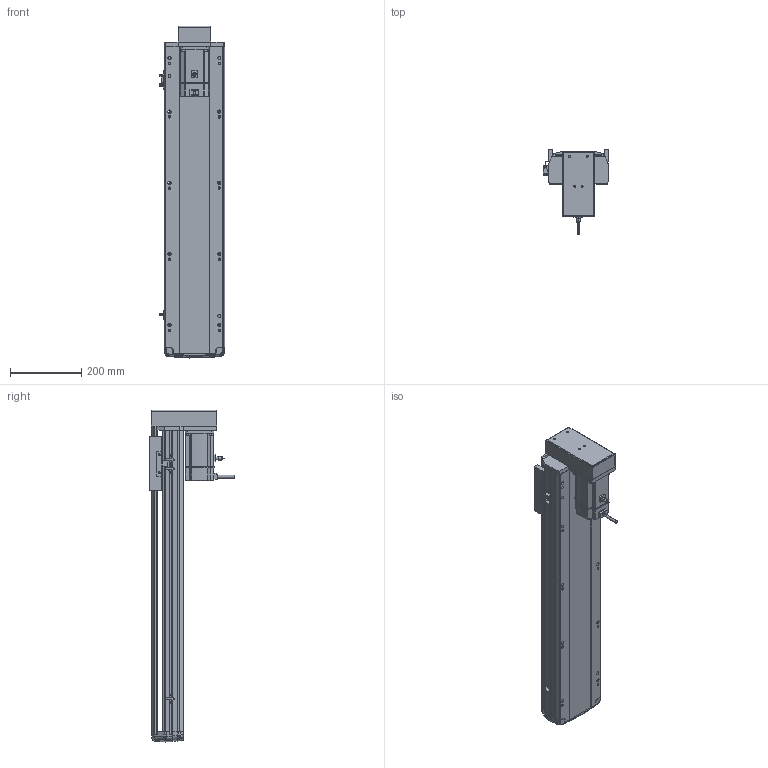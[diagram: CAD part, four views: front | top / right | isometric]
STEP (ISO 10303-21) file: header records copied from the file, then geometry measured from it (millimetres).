
FILE_DESCRIPTION (( 'STEP AP214' ), '1' );
FILE_NAME ('RTH17-XX-650-M-M75-C4.STEP', '2025-10-24T10:24:51', ( '' ), ( '' ), 'SwSTEP 2.0', 'SolidWorks 2018', '' );
FILE_SCHEMA (( 'AUTOMOTIVE_DESIGN' ));
Length unit declared in the file: millimetre
Products named in the file (10): RTH17-XX-650-M-M75-C4; N_RTH-BL-012 感应片(外置)^RTH17-XX-XX-M-M75-C4（方程式）; N_RTH17-M-007上盖^RTH17-XX-XX-M-M75-C4（方程式）; N_RTH17-M-011底座^RTH17-XX-XX-M-M75-C4（方程式）; N_RTH17-M-018盖子^RTH17-XX-XX-M-M75-C4（方程式）; N_OMRON EE-SX672 換覜ん^RTH17-XX-XX-M-M75-C4ㄗ源最宒ㄘ; N_RTH17-E-004丝杆螺母连接座^RTH17-XX-XX-M-M75-C4（方程式）; N_M75^RTH17-XX-XX-M-M75-C4（方程式）; N_RTH17-GY-001P^RTH17-XX-XX-M-M75-C4（方程式）; N_RTH17-M-008-P75电机安装板下折750W^RTH17-XX-XX-M-M75-C4（方程式）
Assembly tree (11 placements, depth 2):
  RTH17-XX-650-M-M75-C4
    N_RTH17-M-011底座^RTH17-XX-XX-M-M75-C4（方程式）
    N_RTH17-M-007上盖^RTH17-XX-XX-M-M75-C4（方程式）
    N_M75^RTH17-XX-XX-M-M75-C4（方程式）
    N_OMRON EE-SX672 換覜ん^RTH17-XX-XX-M-M75-C4ㄗ源最宒ㄘ  x3
    N_RTH-BL-012 感应片(外置)^RTH17-XX-XX-M-M75-C4（方程式）
    N_RTH17-M-008-P75电机安装板下折750W^RTH17-XX-XX-M-M75-C4（方程式）
    N_RTH17-M-018盖子^RTH17-XX-XX-M-M75-C4（方程式）
    N_RTH17-E-004丝杆螺母连接座^RTH17-XX-XX-M-M75-C4（方程式）
    N_RTH17-GY-001P^RTH17-XX-XX-M-M75-C4（方程式）
Bounding box: 183.5 x 240.7 x 933.19 mm (x, y, z)
Volume: 7852263.5 mm3; surface area: 1108333.1 mm2
Topology: 10 solids, 12 shells, 1741 faces, 4796 edges, 3104 vertices
Faces by surface type: plane 828, cylinder 499, bspline 377, cone 28, torus 9
Entity records: 50655 total; most frequent: CARTESIAN_POINT 20266, ORIENTED_EDGE 6616, DIRECTION 5494, EDGE_CURVE 3312, VERTEX_POINT 2140, AXIS2_PLACEMENT_3D 1843, VECTOR 1808, LINE 1808
